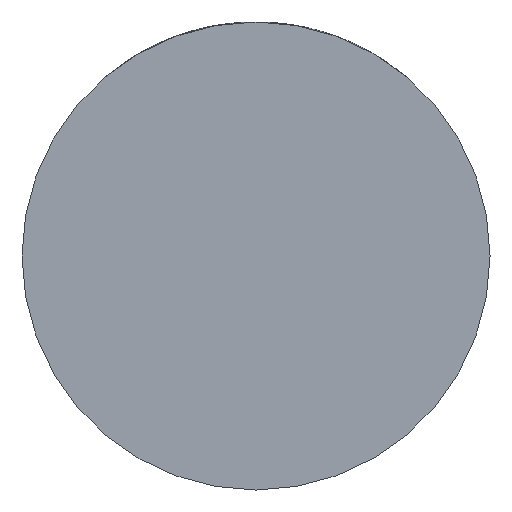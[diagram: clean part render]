
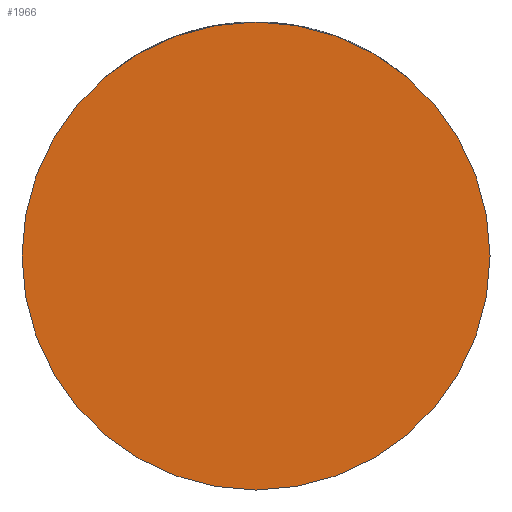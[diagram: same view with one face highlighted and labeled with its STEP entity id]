
A CAD part, front view. The second image highlights one B-rep face of the part: STEP entity #1966.
In plain terms, the highlighted planar face has unit normal (0, -1, 0).
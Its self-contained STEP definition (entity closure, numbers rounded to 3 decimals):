
#229 = DIRECTION ( 'NONE',  ( 0., -1., 0. ) ) ;
#614 = VERTEX_POINT ( 'NONE', #2671 ) ;
#658 = ORIENTED_EDGE ( 'NONE', *, *, #1734, .T. ) ;
#680 = CIRCLE ( 'NONE', #965, 32. ) ;
#965 = AXIS2_PLACEMENT_3D ( 'NONE', #4062, #2968, #1307 ) ;
#1307 = DIRECTION ( 'NONE',  ( 1., 0., 0. ) ) ;
#1734 = EDGE_CURVE ( 'NONE', #3478, #614, #2047, .T. ) ;
#1843 = CARTESIAN_POINT ( 'NONE',  ( 0., -27., 0. ) ) ;
#1966 = ADVANCED_FACE ( 'NONE', ( #2930 ), #2864, .T. ) ;
#2047 = CIRCLE ( 'NONE', #2624, 32. ) ;
#2330 = CARTESIAN_POINT ( 'NONE',  ( -32., -27., 0. ) ) ;
#2624 = AXIS2_PLACEMENT_3D ( 'NONE', #3283, #229, #3306 ) ;
#2671 = CARTESIAN_POINT ( 'NONE',  ( 32., -27., 0. ) ) ;
#2839 = ORIENTED_EDGE ( 'NONE', *, *, #3319, .T. ) ;
#2864 = PLANE ( 'NONE',  #3131 ) ;
#2930 = FACE_OUTER_BOUND ( 'NONE', #3191, .T. ) ;
#2968 = DIRECTION ( 'NONE',  ( 0., -1., 0. ) ) ;
#3131 = AXIS2_PLACEMENT_3D ( 'NONE', #1843, #4038, #3281 ) ;
#3191 = EDGE_LOOP ( 'NONE', ( #658, #2839 ) ) ;
#3281 = DIRECTION ( 'NONE',  ( 1., 0., 0. ) ) ;
#3283 = CARTESIAN_POINT ( 'NONE',  ( 0., -27., 0. ) ) ;
#3306 = DIRECTION ( 'NONE',  ( 1., 0., 0. ) ) ;
#3319 = EDGE_CURVE ( 'NONE', #614, #3478, #680, .T. ) ;
#3478 = VERTEX_POINT ( 'NONE', #2330 ) ;
#4038 = DIRECTION ( 'NONE',  ( 0., -1., 0. ) ) ;
#4062 = CARTESIAN_POINT ( 'NONE',  ( 0., -27., 0. ) ) ;
